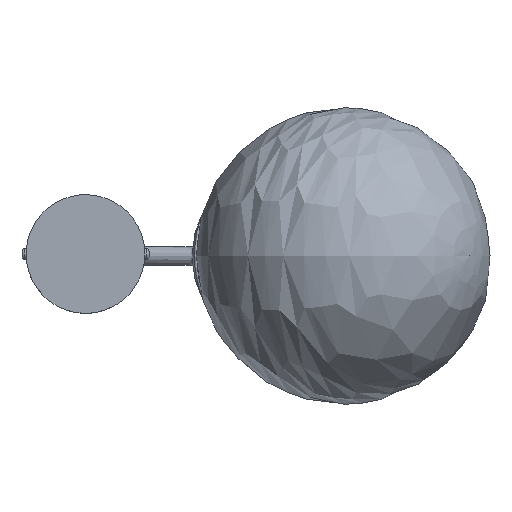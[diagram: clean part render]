
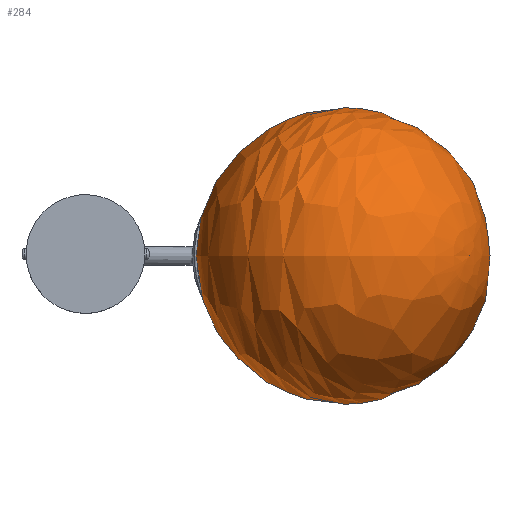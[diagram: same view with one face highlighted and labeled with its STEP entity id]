
A CAD part, top view. The second image highlights one B-rep face of the part: STEP entity #284.
In plain terms, the highlighted free-form (B-spline) face has degree [2, 2] with [9, 5] control points.
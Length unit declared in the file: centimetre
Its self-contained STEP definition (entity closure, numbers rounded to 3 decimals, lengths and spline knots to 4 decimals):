
#223 = CARTESIAN_POINT ('', (18.2505, 0., 76.497));
#224 = VERTEX_POINT ('', #223);
#225 = CARTESIAN_POINT ('', (1.3627, 0., 65.7825));
#226 = VERTEX_POINT ('', #225);
#227 = CARTESIAN_POINT ('', (18.2505, 0., 76.497));
#228 = CARTESIAN_POINT ('', (12.8933, 0., 84.941));
#229 = CARTESIAN_POINT ('', (4.4494, 0., 79.5837));
#230 = CARTESIAN_POINT ('', (-3.9946, 0., 74.2264));
#231 = CARTESIAN_POINT ('', (1.3627, 0., 65.7825));
#232 = (
   BOUNDED_CURVE ()
   B_SPLINE_CURVE (2, (#227, #228, #229, #230, #231), .UNSPECIFIED., .F., .U.)
   B_SPLINE_CURVE_WITH_KNOTS ((3, 2, 3), (0., 0.5, 1.), .UNSPECIFIED.)
   CURVE ()
   GEOMETRIC_REPRESENTATION_ITEM ()
   RATIONAL_B_SPLINE_CURVE ((1., 0.707, 1., 0.707, 1.))
   REPRESENTATION_ITEM ('')
);
#233 = EDGE_CURVE ('', #224, #226, #232, .T.);
#234 = ORIENTED_EDGE ('', *, *, #233, .F.);
#235 = ORIENTED_EDGE ('', *, *, #233, .T.);
#236 = EDGE_LOOP ('', (#234, #235));
#237 = FACE_OUTER_BOUND ('', #236, .T.);
#238 = CARTESIAN_POINT ('', (18.2505, 0., 76.497));
#239 = CARTESIAN_POINT ('', (12.8933, 0., 84.941));
#240 = CARTESIAN_POINT ('', (4.4494, 0., 79.5837));
#241 = CARTESIAN_POINT ('', (-3.9946, 0., 74.2264));
#242 = CARTESIAN_POINT ('', (1.3627, 0., 65.7825));
#243 = CARTESIAN_POINT ('', (18.2505, 0., 76.497));
#244 = CARTESIAN_POINT ('', (12.8933, 10., 84.941));
#245 = CARTESIAN_POINT ('', (4.4494, 10., 79.5837));
#246 = CARTESIAN_POINT ('', (-3.9946, 10., 74.2264));
#247 = CARTESIAN_POINT ('', (1.3627, 0., 65.7825));
#248 = CARTESIAN_POINT ('', (18.2505, 0., 76.497));
#249 = CARTESIAN_POINT ('', (18.2505, 10., 76.497));
#250 = CARTESIAN_POINT ('', (9.8066, 10., 71.1398));
#251 = CARTESIAN_POINT ('', (1.3627, 10., 65.7825));
#252 = CARTESIAN_POINT ('', (1.3627, 0., 65.7825));
#253 = CARTESIAN_POINT ('', (18.2505, 0., 76.497));
#254 = CARTESIAN_POINT ('', (23.6078, 10., 68.0531));
#255 = CARTESIAN_POINT ('', (15.1639, 10., 62.6959));
#256 = CARTESIAN_POINT ('', (6.72, 10., 57.3386));
#257 = CARTESIAN_POINT ('', (1.3627, 0., 65.7825));
#258 = CARTESIAN_POINT ('', (18.2505, 0., 76.497));
#259 = CARTESIAN_POINT ('', (23.6078, 0., 68.0531));
#260 = CARTESIAN_POINT ('', (15.1639, 0., 62.6959));
#261 = CARTESIAN_POINT ('', (6.72, 0., 57.3386));
#262 = CARTESIAN_POINT ('', (1.3627, 0., 65.7825));
#263 = CARTESIAN_POINT ('', (18.2505, 0., 76.497));
#264 = CARTESIAN_POINT ('', (23.6078, -10., 68.0531));
#265 = CARTESIAN_POINT ('', (15.1639, -10., 62.6959));
#266 = CARTESIAN_POINT ('', (6.72, -10., 57.3386));
#267 = CARTESIAN_POINT ('', (1.3627, 0., 65.7825));
#268 = CARTESIAN_POINT ('', (18.2505, 0., 76.497));
#269 = CARTESIAN_POINT ('', (18.2505, -10., 76.497));
#270 = CARTESIAN_POINT ('', (9.8066, -10., 71.1398));
#271 = CARTESIAN_POINT ('', (1.3627, -10., 65.7825));
#272 = CARTESIAN_POINT ('', (1.3627, 0., 65.7825));
#273 = CARTESIAN_POINT ('', (18.2505, 0., 76.497));
#274 = CARTESIAN_POINT ('', (12.8933, -10., 84.941));
#275 = CARTESIAN_POINT ('', (4.4494, -10., 79.5837));
#276 = CARTESIAN_POINT ('', (-3.9946, -10., 74.2264));
#277 = CARTESIAN_POINT ('', (1.3627, 0., 65.7825));
#278 = CARTESIAN_POINT ('', (18.2505, 0., 76.497));
#279 = CARTESIAN_POINT ('', (12.8933, 0., 84.941));
#280 = CARTESIAN_POINT ('', (4.4494, 0., 79.5837));
#281 = CARTESIAN_POINT ('', (-3.9946, 0., 74.2264));
#282 = CARTESIAN_POINT ('', (1.3627, 0., 65.7825));
#283 = (
   BOUNDED_SURFACE ()
   B_SPLINE_SURFACE (2, 2, ((#238, #239, #240, #241, #242), (#243, #244, #245, #246, #247), (#248, #249, #250, #251, #252), (#253, #254, #255, #256, #257), (#258, #259, #260, #261, #262), (#263, #264, #265, #266, #267), (#268, #269, #270, #271, #272), (#273, #274, #275, #276, #277), (#278, #279, #280, #281, #282)), .UNSPECIFIED., .T., .F., .U.)
   B_SPLINE_SURFACE_WITH_KNOTS ((3, 2, 2, 2, 3), (3, 2, 3), (0., 0.25, 0.5, 0.75, 1.), (0., 0.5, 1.), .UNSPECIFIED.)
   SURFACE ()
   GEOMETRIC_REPRESENTATION_ITEM ()
   RATIONAL_B_SPLINE_SURFACE (((1., 0.707, 1., 0.707, 1.), (0.707, 0.5, 0.707, 0.5, 0.707), (1., 0.707, 1., 0.707, 1.), (0.707, 0.5, 0.707, 0.5, 0.707), (1., 0.707, 1., 0.707, 1.), (0.707, 0.5, 0.707, 0.5, 0.707), (1., 0.707, 1., 0.707, 1.), (0.707, 0.5, 0.707, 0.5, 0.707), (1., 0.707, 1., 0.707, 1.)))
   REPRESENTATION_ITEM ('')
);
#284 = ADVANCED_FACE ('', (#237), #283, .T.);
